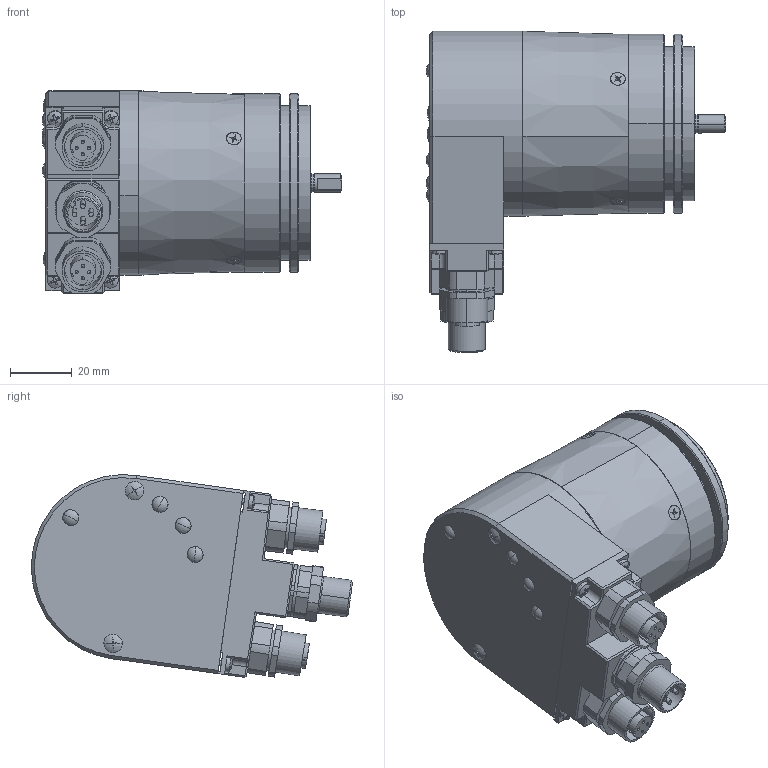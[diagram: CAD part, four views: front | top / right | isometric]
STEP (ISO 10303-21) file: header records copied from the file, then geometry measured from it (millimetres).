
FILE_DESCRIPTION (( 'STEP AP214' ), '1' );
FILE_NAME ('5868.21B2.XXXX.STEP', '2009-01-09T06:58:10', ( 'admin' ), ( 'Fritz Kübler GmbH' ), 'SwSTEP 2.0', 'SolidWorks 2008', '' );
FILE_SCHEMA (( 'AUTOMOTIVE_DESIGN' ));
Length unit declared in the file: millimetre
Products named in the file (1): 5868.21B2.XXXX
Bounding box: 97.2 x 104.23 x 65.79 mm (x, y, z)
Volume: 125964.5 mm3; surface area: 80418.8 mm2
Topology: 25 solids, 27 shells, 2431 faces, 6526 edges, 4208 vertices
Faces by surface type: cylinder 1015, plane 948, cone 312, torus 99, sphere 40, bspline 17
Entity records: 107529 total; most frequent: CARTESIAN_POINT 19149, DIRECTION 13272, ORIENTED_EDGE 12888, EDGE_CURVE 6444, AXIS2_PLACEMENT_3D 5251, VERTEX_POINT 4178, CIRCLE 2836, VECTOR 2770
